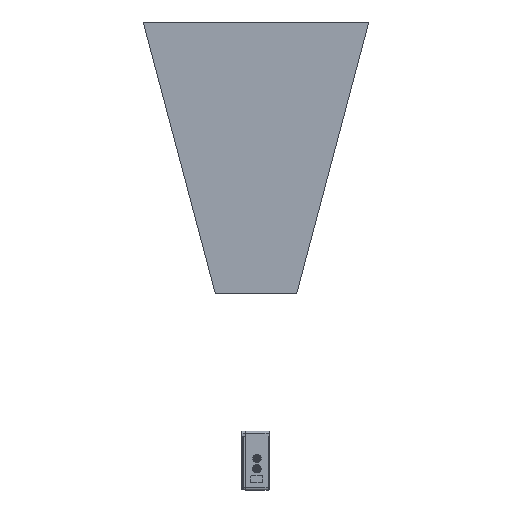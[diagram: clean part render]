
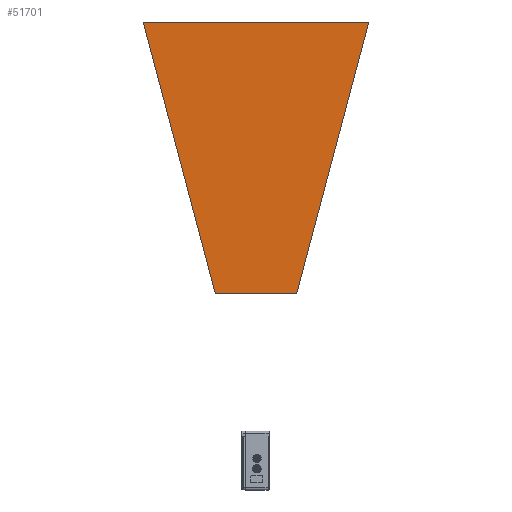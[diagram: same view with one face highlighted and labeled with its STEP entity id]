
A CAD part, left-side view. The second image highlights one B-rep face of the part: STEP entity #51701.
In plain terms, the highlighted planar face has unit normal (-1, 0, 0).
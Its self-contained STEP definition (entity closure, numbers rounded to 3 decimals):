
#51662=DIRECTION('',(0.,1.,0.));
#51663=VECTOR('',#51662,174.);
#51664=CARTESIAN_POINT('',(85.4,-110.,357.5));
#51665=LINE('',#51664,#51663);
#51666=DIRECTION('',(0.,0.257,0.967));
#51667=VECTOR('',#51666,600.097);
#51668=CARTESIAN_POINT('',(85.4,64.,357.5));
#51669=LINE('',#51668,#51667);
#51670=DIRECTION('',(0.,-1.,0.));
#51671=VECTOR('',#51670,482.);
#51672=CARTESIAN_POINT('',(85.4,218.,937.5));
#51673=LINE('',#51672,#51671);
#51674=DIRECTION('',(0.,0.257,-0.967));
#51675=VECTOR('',#51674,600.097);
#51676=CARTESIAN_POINT('',(85.4,-264.,937.5));
#51677=LINE('',#51676,#51675);
#51678=CARTESIAN_POINT('',(85.4,-110.,357.5));
#51679=CARTESIAN_POINT('',(85.4,64.,357.5));
#51680=VERTEX_POINT('',#51678);
#51681=VERTEX_POINT('',#51679);
#51682=CARTESIAN_POINT('',(85.4,218.,937.5));
#51683=VERTEX_POINT('',#51682);
#51684=CARTESIAN_POINT('',(85.4,-264.,937.5));
#51685=VERTEX_POINT('',#51684);
#51686=CARTESIAN_POINT('',(85.4,0.,0.));
#51687=DIRECTION('',(-1.,0.,0.));
#51688=DIRECTION('',(0.,0.,1.));
#51689=AXIS2_PLACEMENT_3D('',#51686,#51687,#51688);
#51690=PLANE('',#51689);
#51692=ORIENTED_EDGE('',*,*,#51691,.T.);
#51694=ORIENTED_EDGE('',*,*,#51693,.T.);
#51696=ORIENTED_EDGE('',*,*,#51695,.T.);
#51698=ORIENTED_EDGE('',*,*,#51697,.T.);
#51699=EDGE_LOOP('',(#51692,#51694,#51696,#51698));
#51700=FACE_OUTER_BOUND('',#51699,.F.);
#51701=ADVANCED_FACE('',(#51700),#51690,.T.);
#51691=EDGE_CURVE('',#51680,#51681,#51665,.T.);
#51693=EDGE_CURVE('',#51681,#51683,#51669,.T.);
#51695=EDGE_CURVE('',#51683,#51685,#51673,.T.);
#51697=EDGE_CURVE('',#51685,#51680,#51677,.T.);
